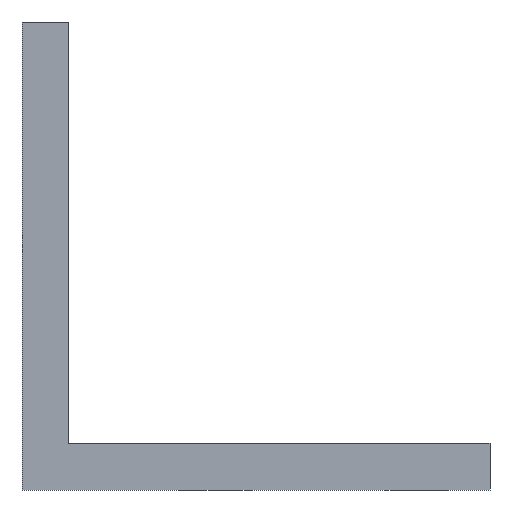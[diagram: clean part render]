
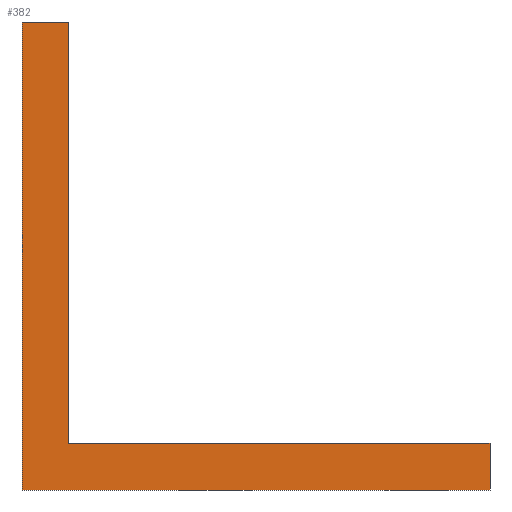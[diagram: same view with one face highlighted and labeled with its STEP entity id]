
A CAD part, front view. The second image highlights one B-rep face of the part: STEP entity #382.
In plain terms, the highlighted planar face has unit normal (0, -1, 0).
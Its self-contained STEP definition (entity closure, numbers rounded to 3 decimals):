
#72=ORIENTED_EDGE('',*,*,#102,.F.);
#73=ORIENTED_EDGE('',*,*,#125,.F.);
#74=ORIENTED_EDGE('',*,*,#120,.F.);
#75=ORIENTED_EDGE('',*,*,#115,.F.);
#76=ORIENTED_EDGE('',*,*,#112,.F.);
#77=ORIENTED_EDGE('',*,*,#107,.F.);
#102=EDGE_CURVE('',#132,#133,#156,.T.);
#107=EDGE_CURVE('',#133,#137,#159,.T.);
#112=EDGE_CURVE('',#137,#141,#162,.T.);
#115=EDGE_CURVE('',#141,#143,#165,.T.);
#120=EDGE_CURVE('',#143,#147,#168,.T.);
#125=EDGE_CURVE('',#147,#132,#171,.T.);
#132=VERTEX_POINT('',#507);
#133=VERTEX_POINT('',#509);
#137=VERTEX_POINT('',#519);
#141=VERTEX_POINT('',#529);
#143=VERTEX_POINT('',#535);
#147=VERTEX_POINT('',#545);
#156=LINE('',#508,#174);
#159=LINE('',#518,#177);
#162=LINE('',#528,#180);
#165=LINE('',#534,#183);
#168=LINE('',#544,#186);
#171=LINE('',#553,#189);
#174=VECTOR('',#431,1000.);
#177=VECTOR('',#440,1000.);
#180=VECTOR('',#449,1000.);
#183=VECTOR('',#454,1000.);
#186=VECTOR('',#463,1000.);
#189=VECTOR('',#472,1000.);
#204=EDGE_LOOP('',(#72,#73,#74,#75,#76,#77));
#236=FACE_BOUND('',#204,.T.);
#260=PLANE('',#411);
#382=ADVANCED_FACE('',(#236),#260,.F.);
#411=AXIS2_PLACEMENT_3D('',#554,#473,#474);
#431=DIRECTION('',(1.,0.,0.));
#440=DIRECTION('',(0.,0.,-1.));
#449=DIRECTION('',(1.,0.,0.));
#454=DIRECTION('',(0.,0.,-1.));
#463=DIRECTION('',(-1.,0.,0.));
#472=DIRECTION('',(0.,0.,1.));
#473=DIRECTION('',(0.,1.,0.));
#474=DIRECTION('',(0.,0.,1.));
#507=CARTESIAN_POINT('',(0.,-5.,50.));
#508=CARTESIAN_POINT('',(0.,-5.,50.));
#509=CARTESIAN_POINT('',(5.,-5.,50.));
#518=CARTESIAN_POINT('',(5.,-5.,50.));
#519=CARTESIAN_POINT('',(5.,-5.,5.));
#528=CARTESIAN_POINT('',(5.,-5.,5.));
#529=CARTESIAN_POINT('',(50.,-5.,5.));
#534=CARTESIAN_POINT('',(50.,-5.,5.));
#535=CARTESIAN_POINT('',(50.,-5.,0.));
#544=CARTESIAN_POINT('',(50.,-5.,0.));
#545=CARTESIAN_POINT('',(0.,-5.,0.));
#553=CARTESIAN_POINT('',(0.,-5.,0.));
#554=CARTESIAN_POINT('',(0.,-5.,0.));
